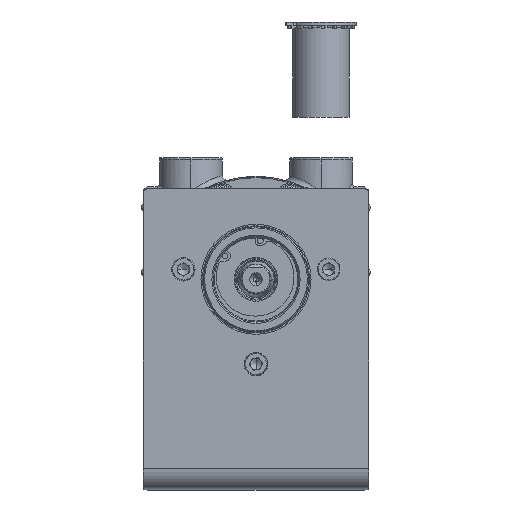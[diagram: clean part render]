
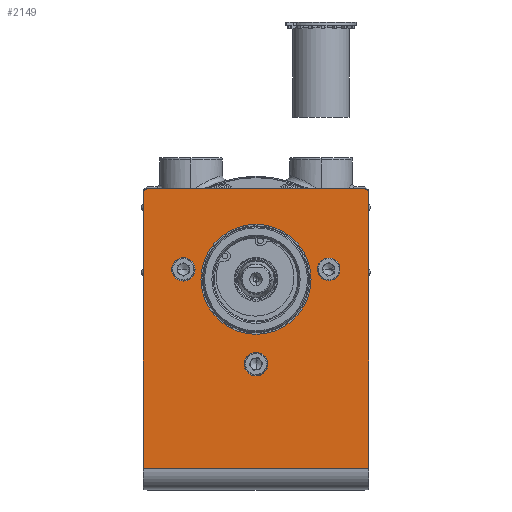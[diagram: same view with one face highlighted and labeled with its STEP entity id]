
A CAD part, top view. The second image highlights one B-rep face of the part: STEP entity #2149.
In plain terms, the highlighted planar face has unit normal (0, 0, 1).
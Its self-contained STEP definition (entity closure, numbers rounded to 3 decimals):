
#112 = ORIENTED_EDGE ( 'NONE', *, *, #26809, .T. ) ;
#334 = DIRECTION ( 'NONE',  ( 0., -1., 0. ) ) ;
#1432 = ORIENTED_EDGE ( 'NONE', *, *, #19977, .T. ) ;
#1478 = VERTEX_POINT ( 'NONE', #17206 ) ;
#2149 = ADVANCED_FACE ( 'NONE', ( #40616, #16652, #20881, #5956, #42021 ), #7684, .T. ) ;
#2454 = DIRECTION ( 'NONE',  ( 0., 0., -1. ) ) ;
#2510 = DIRECTION ( 'NONE',  ( 0., -1., 0. ) ) ;
#2893 = ORIENTED_EDGE ( 'NONE', *, *, #27061, .T. ) ;
#2913 = EDGE_LOOP ( 'NONE', ( #16032, #28766, #37219, #112, #39472, #1432 ) ) ;
#3584 = CARTESIAN_POINT ( 'NONE',  ( -45.75, 42.3, 33.025 ) ) ;
#4920 = EDGE_CURVE ( 'NONE', #36202, #57724, #29709, .T. ) ;
#5119 = LINE ( 'NONE', #27159, #27792 ) ;
#5137 = VERTEX_POINT ( 'NONE', #3584 ) ;
#5396 = DIRECTION ( 'NONE',  ( -1., 0., 0. ) ) ;
#5579 = CARTESIAN_POINT ( 'NONE',  ( 30.716, 4.73, 33.025 ) ) ;
#5947 = AXIS2_PLACEMENT_3D ( 'NONE', #32261, #18777, #23161 ) ;
#5956 = FACE_BOUND ( 'NONE', #55243, .T. ) ;
#5976 = VECTOR ( 'NONE', #10544, 1000. ) ;
#6004 = CARTESIAN_POINT ( 'NONE',  ( 47.75, -84.9, 33.025 ) ) ;
#6336 = EDGE_LOOP ( 'NONE', ( #49450, #35947 ) ) ;
#7189 = DIRECTION ( 'NONE',  ( 0., -1., 0. ) ) ;
#7684 = PLANE ( 'NONE',  #16811 ) ;
#8002 = AXIS2_PLACEMENT_3D ( 'NONE', #53775, #26239, #8398 ) ;
#8398 = DIRECTION ( 'NONE',  ( 0., 1., 0. ) ) ;
#8819 = LINE ( 'NONE', #6004, #5976 ) ;
#9314 = DIRECTION ( 'NONE',  ( 0., -1., 0. ) ) ;
#9809 = CARTESIAN_POINT ( 'NONE',  ( 0., -28.3, 33.025 ) ) ;
#10283 = DIRECTION ( 'NONE',  ( 0., 0., -1. ) ) ;
#10544 = DIRECTION ( 'NONE',  ( 0., 1., 0. ) ) ;
#11192 = CARTESIAN_POINT ( 'NONE',  ( 0., 4., 33.025 ) ) ;
#11981 = VERTEX_POINT ( 'NONE', #47269 ) ;
#12818 = DIRECTION ( 'NONE',  ( 0., 0., -1. ) ) ;
#13033 = EDGE_CURVE ( 'NONE', #15135, #27289, #5119, .T. ) ;
#15135 = VERTEX_POINT ( 'NONE', #47489 ) ;
#16032 = ORIENTED_EDGE ( 'NONE', *, *, #50585, .T. ) ;
#16069 = ORIENTED_EDGE ( 'NONE', *, *, #19509, .T. ) ;
#16311 = AXIS2_PLACEMENT_3D ( 'NONE', #28887, #10283, #41902 ) ;
#16312 = CARTESIAN_POINT ( 'NONE',  ( -30.716, 8.23, 33.025 ) ) ;
#16652 = FACE_BOUND ( 'NONE', #6336, .T. ) ;
#16793 = EDGE_LOOP ( 'NONE', ( #45188, #16069 ) ) ;
#16811 = AXIS2_PLACEMENT_3D ( 'NONE', #35013, #53057, #57593 ) ;
#17206 = CARTESIAN_POINT ( 'NONE',  ( 0., 27.25, 33.025 ) ) ;
#17715 = CARTESIAN_POINT ( 'NONE',  ( 30.716, 11.73, 33.025 ) ) ;
#18777 = DIRECTION ( 'NONE',  ( 0., 0., -1. ) ) ;
#19509 = EDGE_CURVE ( 'NONE', #39139, #55916, #43205, .T. ) ;
#19977 = EDGE_CURVE ( 'NONE', #27289, #35984, #50471, .T. ) ;
#20270 = CIRCLE ( 'NONE', #25889, 3.5 ) ;
#20881 = FACE_BOUND ( 'NONE', #16793, .T. ) ;
#21069 = AXIS2_PLACEMENT_3D ( 'NONE', #58670, #53762, #54130 ) ;
#21217 = CIRCLE ( 'NONE', #21638, 3.5 ) ;
#21622 = AXIS2_PLACEMENT_3D ( 'NONE', #54401, #56918, #56699 ) ;
#21638 = AXIS2_PLACEMENT_3D ( 'NONE', #26491, #12818, #43658 ) ;
#23161 = DIRECTION ( 'NONE',  ( 0., -1., 0. ) ) ;
#23589 = VECTOR ( 'NONE', #5396, 1000. ) ;
#24207 = DIRECTION ( 'NONE',  ( 0., -1., 0. ) ) ;
#25494 = EDGE_CURVE ( 'NONE', #11981, #1478, #26629, .T. ) ;
#25627 = CARTESIAN_POINT ( 'NONE',  ( -30.716, 11.73, 33.025 ) ) ;
#25889 = AXIS2_PLACEMENT_3D ( 'NONE', #16312, #48578, #7189 ) ;
#26239 = DIRECTION ( 'NONE',  ( 0., 0., 1. ) ) ;
#26424 = VECTOR ( 'NONE', #27147, 1000. ) ;
#26491 = CARTESIAN_POINT ( 'NONE',  ( 30.716, 8.23, 33.025 ) ) ;
#26629 = CIRCLE ( 'NONE', #56315, 23.25 ) ;
#26809 = EDGE_CURVE ( 'NONE', #5137, #15135, #43637, .T. ) ;
#27061 = EDGE_CURVE ( 'NONE', #1478, #11981, #40029, .T. ) ;
#27147 = DIRECTION ( 'NONE',  ( 1., 0., 0. ) ) ;
#27159 = CARTESIAN_POINT ( 'NONE',  ( -47.75, -84.9, 33.025 ) ) ;
#27289 = VERTEX_POINT ( 'NONE', #56477 ) ;
#27792 = VECTOR ( 'NONE', #9314, 1000. ) ;
#27826 = VERTEX_POINT ( 'NONE', #38002 ) ;
#27965 = CARTESIAN_POINT ( 'NONE',  ( 47.75, 42.3, 33.025 ) ) ;
#28766 = ORIENTED_EDGE ( 'NONE', *, *, #51480, .T. ) ;
#28887 = CARTESIAN_POINT ( 'NONE',  ( 0., -31.8, 33.025 ) ) ;
#29709 = CIRCLE ( 'NONE', #5947, 3.5 ) ;
#32180 = ORIENTED_EDGE ( 'NONE', *, *, #54462, .T. ) ;
#32261 = CARTESIAN_POINT ( 'NONE',  ( 30.716, 8.23, 33.025 ) ) ;
#34716 = VERTEX_POINT ( 'NONE', #47648 ) ;
#35013 = CARTESIAN_POINT ( 'NONE',  ( 47.75, -84.9, 33.025 ) ) ;
#35198 = EDGE_LOOP ( 'NONE', ( #51989, #32180 ) ) ;
#35231 = VERTEX_POINT ( 'NONE', #25627 ) ;
#35947 = ORIENTED_EDGE ( 'NONE', *, *, #4920, .T. ) ;
#35984 = VERTEX_POINT ( 'NONE', #52197 ) ;
#36202 = VERTEX_POINT ( 'NONE', #17715 ) ;
#36321 = CIRCLE ( 'NONE', #8002, 2. ) ;
#37219 = ORIENTED_EDGE ( 'NONE', *, *, #49600, .T. ) ;
#38002 = CARTESIAN_POINT ( 'NONE',  ( -30.716, 4.73, 33.025 ) ) ;
#38618 = CARTESIAN_POINT ( 'NONE',  ( 0., -31.8, 33.025 ) ) ;
#39139 = VERTEX_POINT ( 'NONE', #9809 ) ;
#39414 = ORIENTED_EDGE ( 'NONE', *, *, #25494, .T. ) ;
#39472 = ORIENTED_EDGE ( 'NONE', *, *, #13033, .T. ) ;
#40029 = CIRCLE ( 'NONE', #55327, 23.25 ) ;
#40616 = FACE_OUTER_BOUND ( 'NONE', #2913, .T. ) ;
#41902 = DIRECTION ( 'NONE',  ( 0., -1., 0. ) ) ;
#42021 = FACE_BOUND ( 'NONE', #35198, .T. ) ;
#42053 = AXIS2_PLACEMENT_3D ( 'NONE', #38618, #2454, #24207 ) ;
#42507 = CARTESIAN_POINT ( 'NONE',  ( 47.75, 40.3, 33.025 ) ) ;
#43205 = CIRCLE ( 'NONE', #42053, 3.5 ) ;
#43637 = CIRCLE ( 'NONE', #21622, 2. ) ;
#43658 = DIRECTION ( 'NONE',  ( 0., -1., 0. ) ) ;
#43876 = CARTESIAN_POINT ( 'NONE',  ( 0., -35.3, 33.025 ) ) ;
#45026 = DIRECTION ( 'NONE',  ( 0., 0., -1. ) ) ;
#45060 = EDGE_CURVE ( 'NONE', #57724, #36202, #21217, .T. ) ;
#45188 = ORIENTED_EDGE ( 'NONE', *, *, #57215, .T. ) ;
#45324 = CARTESIAN_POINT ( 'NONE',  ( 47.75, -75.9, 33.025 ) ) ;
#46894 = CIRCLE ( 'NONE', #21069, 3.5 ) ;
#47223 = EDGE_CURVE ( 'NONE', #27826, #35231, #20270, .T. ) ;
#47269 = CARTESIAN_POINT ( 'NONE',  ( 0., -19.25, 33.025 ) ) ;
#47489 = CARTESIAN_POINT ( 'NONE',  ( -47.75, 40.3, 33.025 ) ) ;
#47648 = CARTESIAN_POINT ( 'NONE',  ( 45.75, 42.3, 33.025 ) ) ;
#47666 = LINE ( 'NONE', #27965, #23589 ) ;
#48578 = DIRECTION ( 'NONE',  ( 0., 0., -1. ) ) ;
#49450 = ORIENTED_EDGE ( 'NONE', *, *, #45060, .T. ) ;
#49600 = EDGE_CURVE ( 'NONE', #34716, #5137, #47666, .T. ) ;
#50471 = LINE ( 'NONE', #45324, #26424 ) ;
#50585 = EDGE_CURVE ( 'NONE', #35984, #57862, #8819, .T. ) ;
#51480 = EDGE_CURVE ( 'NONE', #57862, #34716, #36321, .T. ) ;
#51989 = ORIENTED_EDGE ( 'NONE', *, *, #47223, .T. ) ;
#52162 = DIRECTION ( 'NONE',  ( 0., 0., -1. ) ) ;
#52197 = CARTESIAN_POINT ( 'NONE',  ( 47.75, -75.9, 33.025 ) ) ;
#53057 = DIRECTION ( 'NONE',  ( 0., 0., 1. ) ) ;
#53499 = CIRCLE ( 'NONE', #16311, 3.5 ) ;
#53762 = DIRECTION ( 'NONE',  ( 0., 0., -1. ) ) ;
#53775 = CARTESIAN_POINT ( 'NONE',  ( 45.75, 40.3, 33.025 ) ) ;
#54005 = CARTESIAN_POINT ( 'NONE',  ( 0., 4., 33.025 ) ) ;
#54130 = DIRECTION ( 'NONE',  ( 0., -1., 0. ) ) ;
#54401 = CARTESIAN_POINT ( 'NONE',  ( -45.75, 40.3, 33.025 ) ) ;
#54462 = EDGE_CURVE ( 'NONE', #35231, #27826, #46894, .T. ) ;
#55243 = EDGE_LOOP ( 'NONE', ( #39414, #2893 ) ) ;
#55327 = AXIS2_PLACEMENT_3D ( 'NONE', #54005, #45026, #334 ) ;
#55916 = VERTEX_POINT ( 'NONE', #43876 ) ;
#56315 = AXIS2_PLACEMENT_3D ( 'NONE', #11192, #52162, #2510 ) ;
#56477 = CARTESIAN_POINT ( 'NONE',  ( -47.75, -75.9, 33.025 ) ) ;
#56699 = DIRECTION ( 'NONE',  ( 0., -1., 0. ) ) ;
#56918 = DIRECTION ( 'NONE',  ( 0., 0., 1. ) ) ;
#57215 = EDGE_CURVE ( 'NONE', #55916, #39139, #53499, .T. ) ;
#57593 = DIRECTION ( 'NONE',  ( 0., -1., 0. ) ) ;
#57724 = VERTEX_POINT ( 'NONE', #5579 ) ;
#57862 = VERTEX_POINT ( 'NONE', #42507 ) ;
#58670 = CARTESIAN_POINT ( 'NONE',  ( -30.716, 8.23, 33.025 ) ) ;
